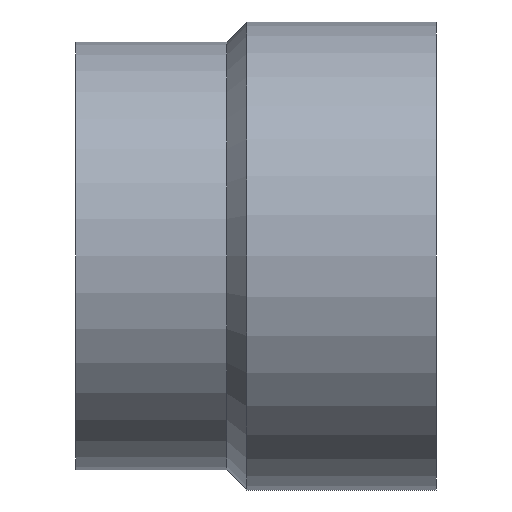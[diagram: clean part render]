
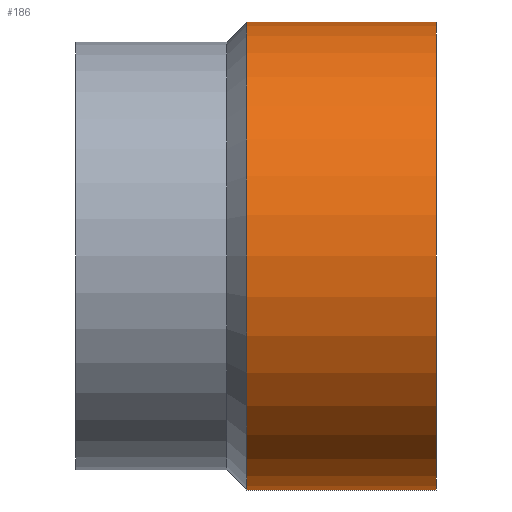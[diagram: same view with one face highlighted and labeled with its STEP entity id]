
A CAD part, left-side view. The second image highlights one B-rep face of the part: STEP entity #186.
In plain terms, the highlighted cylindrical face has radius 52 mm (diameter 104 mm), a full revolution.
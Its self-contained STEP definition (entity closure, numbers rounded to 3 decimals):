
#23=FACE_OUTER_BOUND('',#33,.T.);
#33=EDGE_LOOP('',(#127,#128,#129,#130,#131,#132));
#46=LINE('',#322,#53);
#53=VECTOR('',#254,52.);
#60=CIRCLE('',#217,52.);
#61=CIRCLE('',#218,52.);
#62=CIRCLE('',#219,52.);
#63=CIRCLE('',#220,52.);
#80=VERTEX_POINT('',#317);
#81=VERTEX_POINT('',#318);
#82=VERTEX_POINT('',#321);
#83=VERTEX_POINT('',#323);
#100=EDGE_CURVE('',#80,#81,#60,.T.);
#101=EDGE_CURVE('',#81,#80,#61,.T.);
#102=EDGE_CURVE('',#81,#82,#46,.T.);
#103=EDGE_CURVE('',#82,#83,#62,.T.);
#104=EDGE_CURVE('',#83,#82,#63,.T.);
#127=ORIENTED_EDGE('',*,*,#100,.F.);
#128=ORIENTED_EDGE('',*,*,#101,.F.);
#129=ORIENTED_EDGE('',*,*,#102,.T.);
#130=ORIENTED_EDGE('',*,*,#103,.T.);
#131=ORIENTED_EDGE('',*,*,#104,.T.);
#132=ORIENTED_EDGE('',*,*,#102,.F.);
#181=CYLINDRICAL_SURFACE('',#216,52.);
#186=ADVANCED_FACE('',(#23),#181,.T.);
#216=AXIS2_PLACEMENT_3D('',#316,#248,#249);
#217=AXIS2_PLACEMENT_3D('',#319,#250,#251);
#218=AXIS2_PLACEMENT_3D('',#320,#252,#253);
#219=AXIS2_PLACEMENT_3D('',#324,#255,#256);
#220=AXIS2_PLACEMENT_3D('',#325,#257,#258);
#248=DIRECTION('center_axis',(0.,1.,0.));
#249=DIRECTION('ref_axis',(-1.,0.,0.));
#250=DIRECTION('center_axis',(0.,1.,0.));
#251=DIRECTION('ref_axis',(-1.,0.,0.));
#252=DIRECTION('center_axis',(0.,1.,0.));
#253=DIRECTION('ref_axis',(-1.,0.,0.));
#254=DIRECTION('',(0.,-1.,0.));
#255=DIRECTION('center_axis',(0.,1.,0.));
#256=DIRECTION('ref_axis',(-1.,0.,0.));
#257=DIRECTION('center_axis',(0.,1.,0.));
#258=DIRECTION('ref_axis',(-1.,0.,0.));
#316=CARTESIAN_POINT('Origin',(0.,21.,0.));
#317=CARTESIAN_POINT('',(-52.,42.,0.));
#318=CARTESIAN_POINT('',(52.,42.,0.));
#319=CARTESIAN_POINT('Origin',(0.,42.,0.));
#320=CARTESIAN_POINT('Origin',(0.,42.,0.));
#321=CARTESIAN_POINT('',(52.,0.,0.));
#322=CARTESIAN_POINT('',(52.,21.,0.));
#323=CARTESIAN_POINT('',(-52.,0.,0.));
#324=CARTESIAN_POINT('Origin',(0.,0.,0.));
#325=CARTESIAN_POINT('Origin',(0.,0.,0.));
